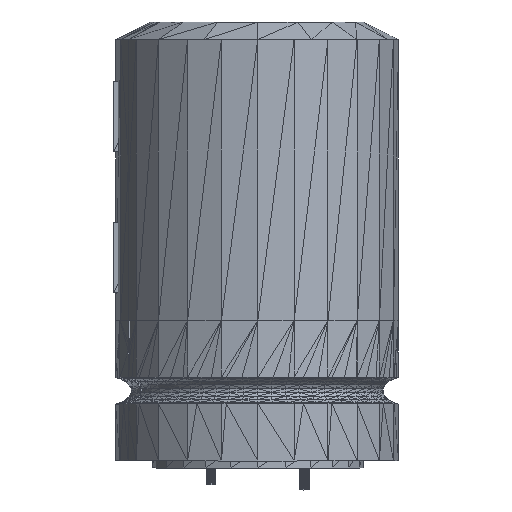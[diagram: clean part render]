
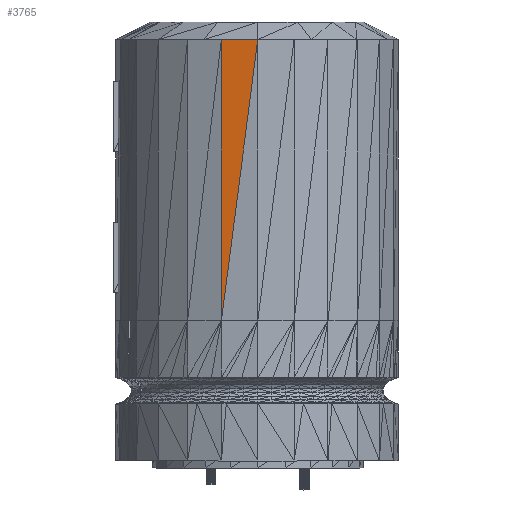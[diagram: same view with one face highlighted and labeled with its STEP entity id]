
A CAD part, front view. The second image highlights one B-rep face of the part: STEP entity #3765.
In plain terms, the highlighted planar face has unit normal (-0.131, -0.991, 0).
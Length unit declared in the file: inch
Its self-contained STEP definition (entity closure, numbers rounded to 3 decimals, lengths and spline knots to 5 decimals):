
#2965=CARTESIAN_POINT('',(0.,-0.75047,2.28735));
#2966=VERTEX_POINT('',#2965);
#2988=CARTESIAN_POINT('',(-0.19412,-0.72491,2.28735));
#2989=VERTEX_POINT('',#2988);
#2990=CARTESIAN_POINT('',(0.,-0.75047,2.28735));
#2991=DIRECTION('',(-0.991,0.131,0.));
#2992=VECTOR('',#2991,0.1958);
#2993=LINE('',#2990,#2992);
#2994=EDGE_CURVE('',#2966,#2989,#2993,.T.);
#3732=CARTESIAN_POINT('',(-0.19412,-0.7246,0.78735));
#3733=VERTEX_POINT('',#3732);
#3734=CARTESIAN_POINT('',(-0.19412,-0.7246,0.78735));
#3735=DIRECTION('',(0.128,-0.017,0.992));
#3736=VECTOR('',#3735,1.51272);
#3737=LINE('',#3734,#3736);
#3738=EDGE_CURVE('',#3733,#2966,#3737,.T.);
#3750=CARTESIAN_POINT('',(0.,-0.75047,2.28735));
#3751=DIRECTION('',(0.131,0.991,0.));
#3752=DIRECTION('',(0.991,-0.131,0.));
#3753=AXIS2_PLACEMENT_3D('',#3750,#3751,#3752);
#3754=PLANE('',#3753);
#3755=ORIENTED_EDGE('',*,*,#2994,.T.);
#3756=CARTESIAN_POINT('',(-0.19412,-0.7246,0.78735));
#3757=DIRECTION('',(0.,0.,1.));
#3758=VECTOR('',#3757,1.5);
#3759=LINE('',#3756,#3758);
#3760=EDGE_CURVE('',#3733,#2989,#3759,.T.);
#3761=ORIENTED_EDGE('',*,*,#3760,.F.);
#3762=ORIENTED_EDGE('',*,*,#3738,.T.);
#3763=EDGE_LOOP('',(#3755,#3761,#3762));
#3764=FACE_BOUND('',#3763,.T.);
#3765=ADVANCED_FACE('',(#3764),#3754,.F.);
